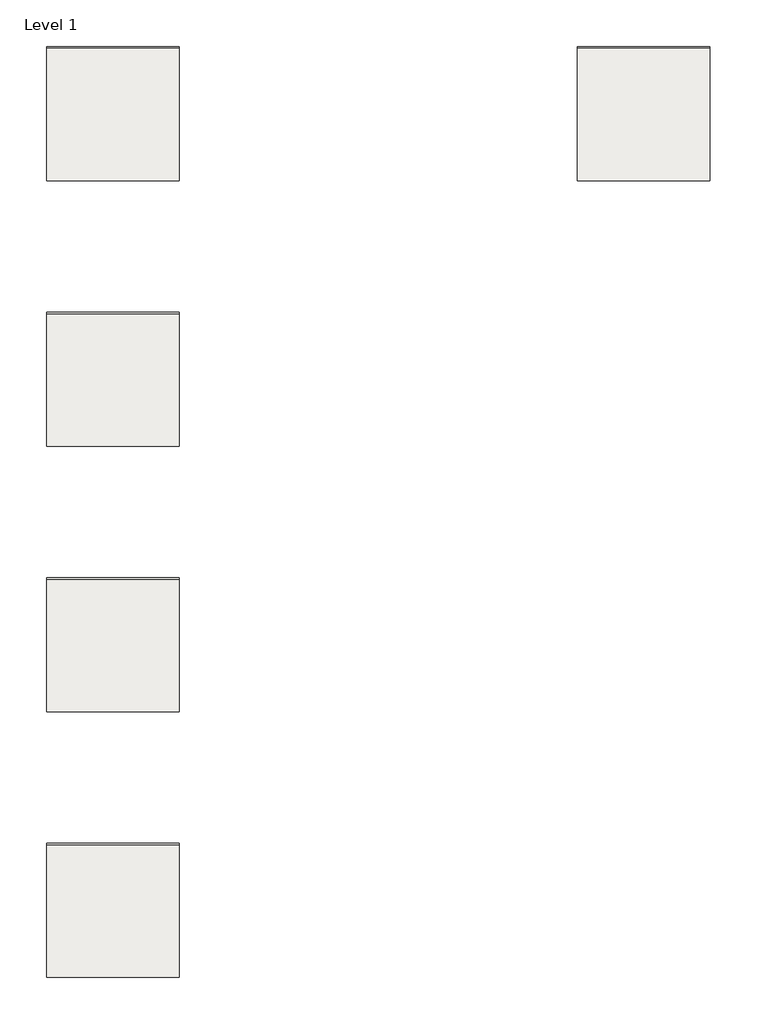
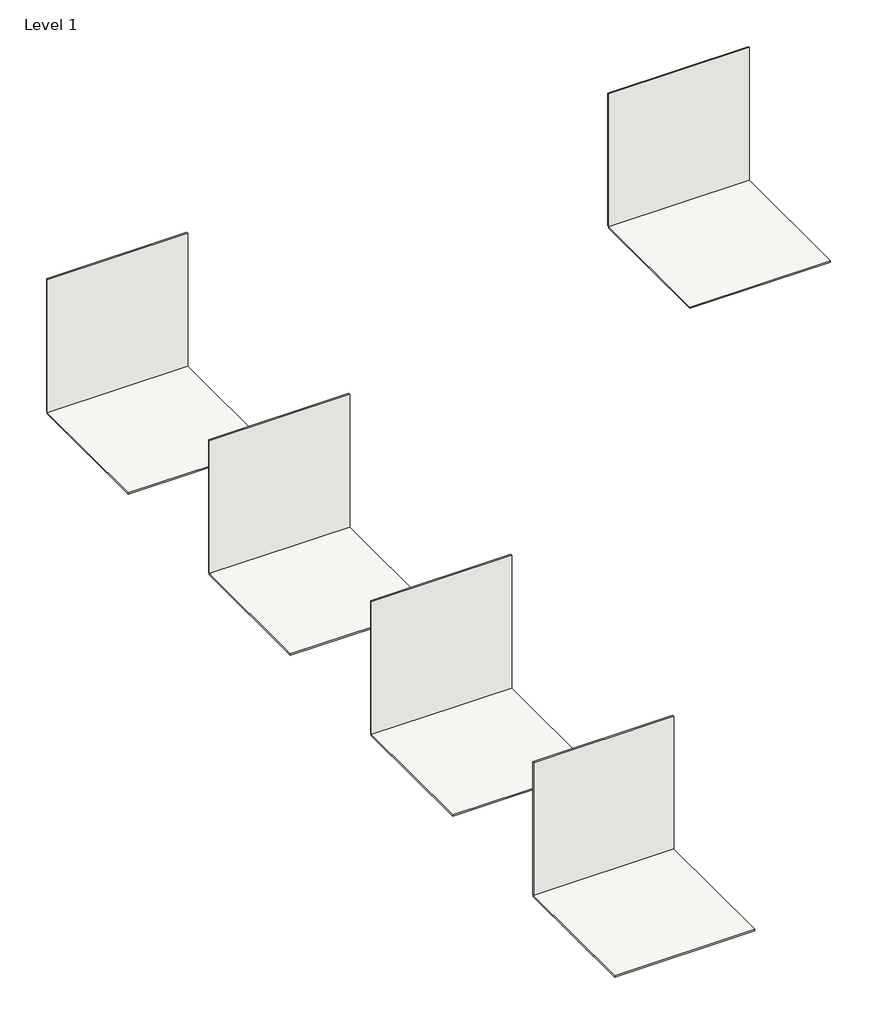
# One storey: 10 coverings.
"""IFC4 building model written with IfcOpenShell, lengths in millimetres."""

from ifc_helpers import new_model, si_unit, frame, origin, origin_with_axes, place, context, project, spatial, polyline, outline, extrude, element, save

model = new_model("IFC4")

# Units and contexts
model_context = context("Model", 3, world=origin())
ifc_project = project(units=[si_unit("LENGTHUNIT", "METRE", prefix="MILLI")], contexts=[model_context])

# Site, building, storey
site = spatial("IfcSite", under=ifc_project)
building = spatial("IfcBuilding", under=site)
storey = spatial("IfcBuildingStorey", under=building, Name="Level 1", Elevation=0.0)

# Coverings
placement = place(None, origin())
element("IfcCovering", 1, ObjectType="REVIGRES-PINE_WOOD-BASE-19.6x120-ANTISLIP_RECT", at=placement, inside=storey, context=model_context, shape_type="SweptSolid", body=[
    extrude(outline(polyline([(14537.6288739, -5775.9559027), (15537.6288739, -5775.9559027), (15537.6288739, -5786.4559027), (14537.6288739, -5786.4559027), (14537.6288739, -5775.9559027)])), origin_with_axes(), (0.0, 0.0, 1.0), 1000.0),
])
element("IfcCovering", 2, ObjectType="REVIGRES-PINE_WOOD-BASE-19.6x120-ANTISLIP_RECT", at=placement, inside=storey, context=model_context, shape_type="SweptSolid", body=[
    extrude(outline(polyline([(14537.6288739, -5786.4559027), (15537.6288739, -5786.4559027), (15537.6288739, -6786.4559027), (14537.6288739, -6786.4559027), (14537.6288739, -5786.4559027)])), frame((0.0, 0.0, -10.5), z_axis=(0.0, 0.0, 1.0), x_axis=(1.0, 0.0, 0.0)), (0.0, 0.0, 1.0), 10.5),
])
element("IfcCovering", 3, ObjectType="REVIGRES-PINE_WOOD-BASE-19.6x120-MATT_RECT", at=placement, inside=storey, context=model_context, shape_type="SweptSolid", body=[
    extrude(outline(polyline([(10537.6288739, -5775.9559027), (11537.6288739, -5775.9559027), (11537.6288739, -5786.4559027), (10537.6288739, -5786.4559027), (10537.6288739, -5775.9559027)])), origin_with_axes(), (0.0, 0.0, 1.0), 1000.0),
])
element("IfcCovering", 4, ObjectType="REVIGRES-PINE_WOOD-BASE-19.6x120-MATT_RECT", at=placement, inside=storey, context=model_context, shape_type="SweptSolid", body=[
    extrude(outline(polyline([(10537.6288739, -5786.4559027), (11537.6288739, -5786.4559027), (11537.6288739, -6786.4559027), (10537.6288739, -6786.4559027), (10537.6288739, -5786.4559027)])), frame((0.0, 0.0, -10.5), z_axis=(0.0, 0.0, 1.0), x_axis=(1.0, 0.0, 0.0)), (0.0, 0.0, 1.0), 10.5),
])
element("IfcCovering", 5, ObjectType="REVIGRES-PINE_WOOD-BASE-19.6x180-MATT_RECT", at=placement, inside=storey, context=model_context, shape_type="SweptSolid", body=[
    extrude(outline(polyline([(10537.6288739, -7775.2559027), (11537.6288739, -7775.2559027), (11537.6288739, -7786.4559027), (10537.6288739, -7786.4559027), (10537.6288739, -7775.2559027)])), origin_with_axes(), (0.0, 0.0, 1.0), 1000.0),
])
element("IfcCovering", 6, ObjectType="REVIGRES-PINE_WOOD-BASE-19.6x180-MATT_RECT", at=placement, inside=storey, context=model_context, shape_type="SweptSolid", body=[
    extrude(outline(polyline([(10537.6288739, -7786.4559027), (11537.6288739, -7786.4559027), (11537.6288739, -8786.4559027), (10537.6288739, -8786.4559027), (10537.6288739, -7786.4559027)])), frame((0.0, 0.0, -11.2), z_axis=(0.0, 0.0, 1.0), x_axis=(1.0, 0.0, 0.0)), (0.0, 0.0, 1.0), 11.2),
])
element("IfcCovering", 7, ObjectType="REVIGRES-PINE_WOOD-BASE-29.5x120-MATT_RECT", at=placement, inside=storey, context=model_context, shape_type="SweptSolid", body=[
    extrude(outline(polyline([(10537.6288739, -9775.9559027), (11537.6288739, -9775.9559027), (11537.6288739, -9786.4559027), (10537.6288739, -9786.4559027), (10537.6288739, -9775.9559027)])), origin_with_axes(), (0.0, 0.0, 1.0), 1000.0),
])
element("IfcCovering", 8, ObjectType="REVIGRES-PINE_WOOD-BASE-29.5x120-MATT_RECT", at=placement, inside=storey, context=model_context, shape_type="SweptSolid", body=[
    extrude(outline(polyline([(10537.6288739, -9786.4559027), (11537.6288739, -9786.4559027), (11537.6288739, -10786.4559027), (10537.6288739, -10786.4559027), (10537.6288739, -9786.4559027)])), frame((0.0, 0.0, -10.5), z_axis=(0.0, 0.0, 1.0), x_axis=(1.0, 0.0, 0.0)), (0.0, 0.0, 1.0), 10.5),
])
element("IfcCovering", 9, ObjectType="REVIGRES-PINE_WOOD-BASE-29.5x180-MATT_RECT", at=placement, inside=storey, context=model_context, shape_type="SweptSolid", body=[
    extrude(outline(polyline([(10537.6288739, -11775.2559027), (11537.6288739, -11775.2559027), (11537.6288739, -11786.4559027), (10537.6288739, -11786.4559027), (10537.6288739, -11775.2559027)])), origin_with_axes(), (0.0, 0.0, 1.0), 1000.0),
])
element("IfcCovering", 10, ObjectType="REVIGRES-PINE_WOOD-BASE-29.5x180-MATT_RECT", at=placement, inside=storey, context=model_context, shape_type="SweptSolid", body=[
    extrude(outline(polyline([(10537.6288739, -11780.8559027), (11537.6288739, -11780.8559027), (11537.6288739, -12786.4559027), (10537.6288739, -12786.4559027), (10537.6288739, -11780.8559027)])), frame((0.0, 0.0, -11.2), z_axis=(0.0, 0.0, 1.0), x_axis=(1.0, 0.0, 0.0)), (0.0, 0.0, 1.0), 11.2),
])

save(model, "model.ifc")
